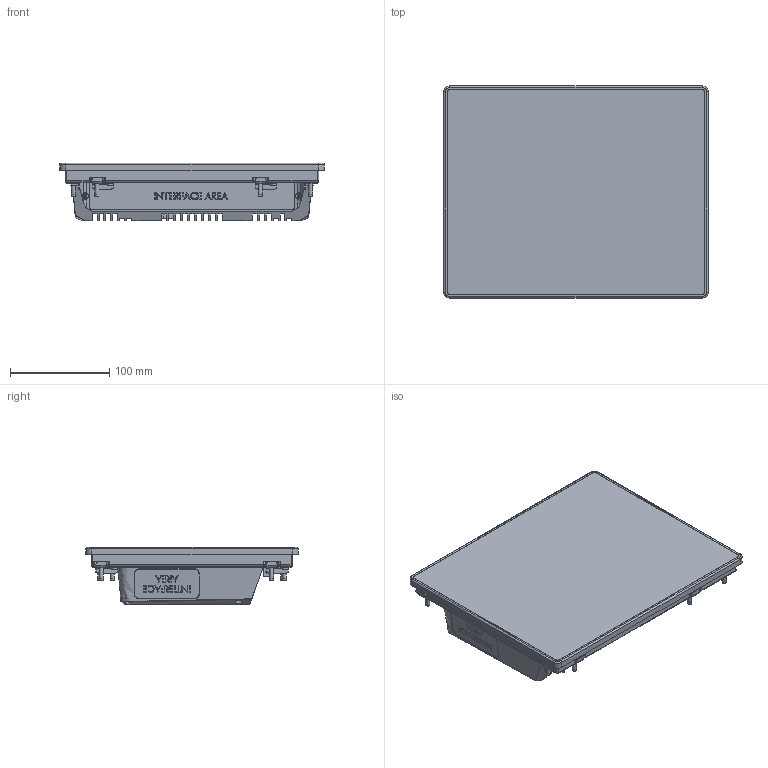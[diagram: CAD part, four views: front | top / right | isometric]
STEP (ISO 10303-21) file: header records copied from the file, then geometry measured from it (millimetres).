
FILE_DESCRIPTION(/* description */ (''),/* implementation_level */ '2;1');
FILE_NAME(/* name */ 'C:\#Vault-WorkDir\Konstruktions-Dokumente\Projekte\VISOR\Zubehör\153-13536_PV-AW10IoT10.4TX.stp',/* time_stamp */ '2022-05-11T12:13:58+02:00',/* author */ ('SensoPart'),/* organization */ ('SensoPart'),/* preprocessor_version */ 'ST-DEVELOPER v18.1',/* originating_system */ 'Autodesk Inventor 2022',/* authorisation */ '');
FILE_SCHEMA (('AUTOMOTIVE_DESIGN { 1 0 10303 214 3 1 1 }'));
Products named in the file (1): GH-ENG-0038485
Bounding box: 266 x 213.2 x 58 mm (x, y, z)
Volume: 2082162.3 mm3; surface area: 328900.6 mm2
Topology: 2 solids, 18 shells, 2100 faces, 5416 edges, 3481 vertices
Faces by surface type: plane 1021, cylinder 823, cone 96, bspline 94, torus 46, sphere 20
Full cylindrical faces by diameter (mm): 1.6 x1, 2 x24, 3 x12, 3.242 x8, 3.3 x8, 3.4 x6, 3.6 x4, 4 x16, 4.55 x4, 5.5 x14, 5.8 x8, 6.2 x16, 6.3 x3, 6.5 x4, 7 x4
Entity records: 76302 total; most frequent: CARTESIAN_POINT 22260, DIRECTION 10924, ORIENTED_EDGE 10804, EDGE_CURVE 5402, AXIS2_PLACEMENT_3D 3852, VERTEX_POINT 3480, LINE 3220, VECTOR 3220
